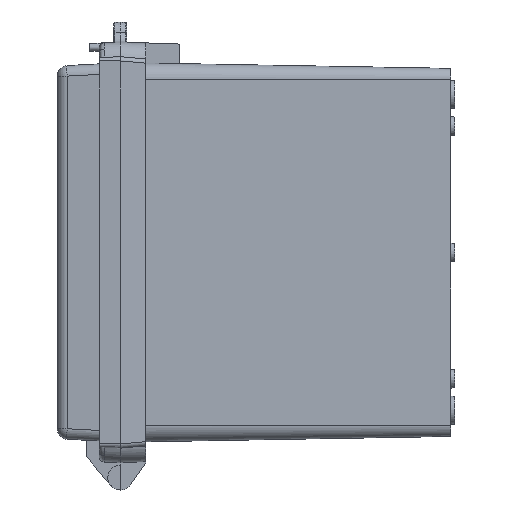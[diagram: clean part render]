
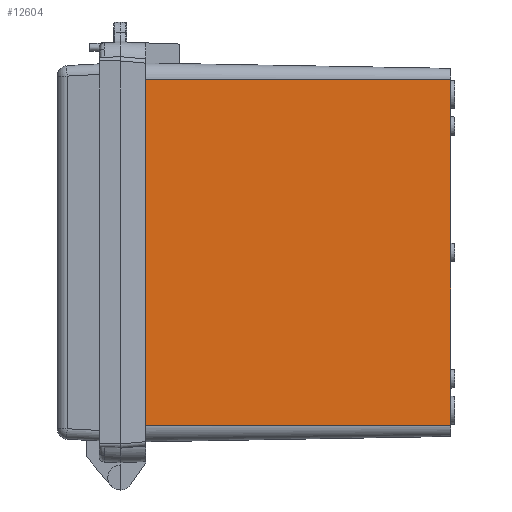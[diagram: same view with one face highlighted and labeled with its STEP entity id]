
A CAD part, left-side view. The second image highlights one B-rep face of the part: STEP entity #12604.
In plain terms, the highlighted planar face has unit normal (-1, -0.018, 0).
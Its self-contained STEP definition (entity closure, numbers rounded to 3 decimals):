
#59 = DIRECTION ( 'NONE',  ( 0., 0., -1. ) ) ;
#267 = VERTEX_POINT ( 'NONE', #3801 ) ;
#845 = VECTOR ( 'NONE', #59, 1000. ) ;
#883 = LINE ( 'NONE', #21261, #21521 ) ;
#971 = VECTOR ( 'NONE', #18442, 1000. ) ;
#987 = VECTOR ( 'NONE', #6420, 1000. ) ;
#1102 = VERTEX_POINT ( 'NONE', #10052 ) ;
#1311 = CARTESIAN_POINT ( 'NONE',  ( -140.148, -3.5, 1.597 ) ) ;
#1332 = DIRECTION ( 'NONE',  ( -0.017, 0.999, -0.035 ) ) ;
#1833 = VECTOR ( 'NONE', #8513, 1000. ) ;
#1900 = CARTESIAN_POINT ( 'NONE',  ( -140.148, -3.5, -94.653 ) ) ;
#2108 = LINE ( 'NONE', #17033, #19503 ) ;
#2199 = CARTESIAN_POINT ( 'NONE',  ( -140., -12., -94.653 ) ) ;
#2211 = CARTESIAN_POINT ( 'NONE',  ( -140.148, -3.5, 58.403 ) ) ;
#3023 = PLANE ( 'NONE',  #4336 ) ;
#3801 = CARTESIAN_POINT ( 'NONE',  ( -140., -12., 61.3 ) ) ;
#4027 = DIRECTION ( 'NONE',  ( -0.017, 1., 0. ) ) ;
#4205 = ORIENTED_EDGE ( 'NONE', *, *, #21561, .T. ) ;
#4335 = ORIENTED_EDGE ( 'NONE', *, *, #7103, .T. ) ;
#4336 = AXIS2_PLACEMENT_3D ( 'NONE', #4915, #14958, #14844 ) ;
#4390 = CARTESIAN_POINT ( 'NONE',  ( -137.469, -157., -82.15 ) ) ;
#4442 = DIRECTION ( 'NONE',  ( -0.017, 0.999, -0.035 ) ) ;
#4613 = ORIENTED_EDGE ( 'NONE', *, *, #18851, .T. ) ;
#4665 = EDGE_CURVE ( 'NONE', #9756, #17325, #9804, .T. ) ;
#4797 = LINE ( 'NONE', #13165, #10396 ) ;
#4893 = ORIENTED_EDGE ( 'NONE', *, *, #22018, .T. ) ;
#4915 = CARTESIAN_POINT ( 'NONE',  ( -140.148, -3.5, -94.653 ) ) ;
#5437 = DIRECTION ( 'NONE',  ( -0.017, 0.999, -0.035 ) ) ;
#5864 = DIRECTION ( 'NONE',  ( 0., 0., -1. ) ) ;
#6008 = DIRECTION ( 'NONE',  ( 0.017, -0.999, -0.035 ) ) ;
#6054 = CARTESIAN_POINT ( 'NONE',  ( -140.148, -3.5, -94.653 ) ) ;
#6127 = CARTESIAN_POINT ( 'NONE',  ( -140.148, -3.5, 61.597 ) ) ;
#6416 = VECTOR ( 'NONE', #21640, 1000. ) ;
#6420 = DIRECTION ( 'NONE',  ( 0., 0., -1. ) ) ;
#6658 = EDGE_CURVE ( 'NONE', #16434, #17908, #15949, .T. ) ;
#6733 = VECTOR ( 'NONE', #20281, 1000. ) ;
#6739 = DIRECTION ( 'NONE',  ( 0., 0., -1. ) ) ;
#6756 = LINE ( 'NONE', #8422, #971 ) ;
#6986 = CARTESIAN_POINT ( 'NONE',  ( -140.148, -3.5, 82.15 ) ) ;
#7103 = EDGE_CURVE ( 'NONE', #18040, #13993, #17376, .T. ) ;
#7436 = EDGE_CURVE ( 'NONE', #15871, #1102, #14015, .T. ) ;
#7497 = CARTESIAN_POINT ( 'NONE',  ( -137.469, -157., -94.653 ) ) ;
#7923 = EDGE_CURVE ( 'NONE', #13702, #267, #4797, .T. ) ;
#8371 = FACE_OUTER_BOUND ( 'NONE', #20636, .T. ) ;
#8416 = CARTESIAN_POINT ( 'NONE',  ( -140.148, -3.5, -94.653 ) ) ;
#8422 = CARTESIAN_POINT ( 'NONE',  ( -140.148, -3.5, -82.15 ) ) ;
#8513 = DIRECTION ( 'NONE',  ( 0., 0., -1. ) ) ;
#8617 = ORIENTED_EDGE ( 'NONE', *, *, #11202, .T. ) ;
#8707 = EDGE_CURVE ( 'NONE', #13021, #17908, #6756, .T. ) ;
#9050 = DIRECTION ( 'NONE',  ( 0., 0., -1. ) ) ;
#9756 = VERTEX_POINT ( 'NONE', #11987 ) ;
#9804 = LINE ( 'NONE', #16600, #19210 ) ;
#10052 = CARTESIAN_POINT ( 'NONE',  ( -140., -12., -61.3 ) ) ;
#10396 = VECTOR ( 'NONE', #19952, 1000. ) ;
#10450 = ORIENTED_EDGE ( 'NONE', *, *, #8707, .T. ) ;
#10474 = CARTESIAN_POINT ( 'NONE',  ( -140., -12., 1.3 ) ) ;
#11202 = EDGE_CURVE ( 'NONE', #16674, #13702, #17161, .T. ) ;
#11290 = ORIENTED_EDGE ( 'NONE', *, *, #12251, .T. ) ;
#11987 = CARTESIAN_POINT ( 'NONE',  ( -140., -12., -1.3 ) ) ;
#12251 = EDGE_CURVE ( 'NONE', #21275, #9756, #20308, .T. ) ;
#12494 = CARTESIAN_POINT ( 'NONE',  ( -140.148, -3.5, 82.15 ) ) ;
#12604 = ADVANCED_FACE ( 'NONE', ( #8371 ), #3023, .T. ) ;
#12626 = VECTOR ( 'NONE', #6739, 1000. ) ;
#13021 = VERTEX_POINT ( 'NONE', #20665 ) ;
#13158 = ORIENTED_EDGE ( 'NONE', *, *, #20042, .T. ) ;
#13165 = CARTESIAN_POINT ( 'NONE',  ( -140.053, -8.948, 61.407 ) ) ;
#13209 = ORIENTED_EDGE ( 'NONE', *, *, #6658, .F. ) ;
#13470 = DIRECTION ( 'NONE',  ( 0.017, -0.999, -0.035 ) ) ;
#13599 = ORIENTED_EDGE ( 'NONE', *, *, #17110, .T. ) ;
#13702 = VERTEX_POINT ( 'NONE', #6127 ) ;
#13915 = LINE ( 'NONE', #20690, #16565 ) ;
#13993 = VERTEX_POINT ( 'NONE', #2211 ) ;
#14015 = LINE ( 'NONE', #2199, #16313 ) ;
#14082 = VECTOR ( 'NONE', #4027, 1000. ) ;
#14501 = LINE ( 'NONE', #12494, #14082 ) ;
#14721 = CARTESIAN_POINT ( 'NONE',  ( -140.148, -3.5, -61.597 ) ) ;
#14840 = VERTEX_POINT ( 'NONE', #14721 ) ;
#14844 = DIRECTION ( 'NONE',  ( 0.017, -1., 0. ) ) ;
#14958 = DIRECTION ( 'NONE',  ( -1., -0.017, 0. ) ) ;
#14998 = EDGE_CURVE ( 'NONE', #16507, #21275, #2108, .T. ) ;
#15871 = VERTEX_POINT ( 'NONE', #19207 ) ;
#15917 = VECTOR ( 'NONE', #9050, 1000. ) ;
#15949 = LINE ( 'NONE', #7497, #15917 ) ;
#16313 = VECTOR ( 'NONE', #5864, 1000. ) ;
#16434 = VERTEX_POINT ( 'NONE', #16685 ) ;
#16507 = VERTEX_POINT ( 'NONE', #1311 ) ;
#16565 = VECTOR ( 'NONE', #5437, 1000. ) ;
#16600 = CARTESIAN_POINT ( 'NONE',  ( -140.205, -0.255, -1.71 ) ) ;
#16674 = VERTEX_POINT ( 'NONE', #6986 ) ;
#16685 = CARTESIAN_POINT ( 'NONE',  ( -137.469, -157., 82.15 ) ) ;
#16773 = LINE ( 'NONE', #8416, #987 ) ;
#17033 = CARTESIAN_POINT ( 'NONE',  ( -140.09, -6.856, 1.48 ) ) ;
#17110 = EDGE_CURVE ( 'NONE', #13993, #16507, #18194, .T. ) ;
#17161 = LINE ( 'NONE', #1900, #6733 ) ;
#17325 = VERTEX_POINT ( 'NONE', #18577 ) ;
#17376 = LINE ( 'NONE', #19603, #20905 ) ;
#17639 = EDGE_CURVE ( 'NONE', #14840, #13021, #16773, .T. ) ;
#17871 = ORIENTED_EDGE ( 'NONE', *, *, #17639, .T. ) ;
#17908 = VERTEX_POINT ( 'NONE', #4390 ) ;
#18040 = VERTEX_POINT ( 'NONE', #21860 ) ;
#18146 = ORIENTED_EDGE ( 'NONE', *, *, #7923, .T. ) ;
#18194 = LINE ( 'NONE', #6054, #6416 ) ;
#18283 = VERTEX_POINT ( 'NONE', #18964 ) ;
#18439 = CARTESIAN_POINT ( 'NONE',  ( -140.148, -3.5, -94.653 ) ) ;
#18442 = DIRECTION ( 'NONE',  ( 0.017, -1., 0. ) ) ;
#18554 = LINE ( 'NONE', #18439, #845 ) ;
#18577 = CARTESIAN_POINT ( 'NONE',  ( -140.148, -3.5, -1.597 ) ) ;
#18652 = LINE ( 'NONE', #21985, #12626 ) ;
#18851 = EDGE_CURVE ( 'NONE', #17325, #18283, #18554, .T. ) ;
#18964 = CARTESIAN_POINT ( 'NONE',  ( -140.148, -3.5, -58.403 ) ) ;
#19207 = CARTESIAN_POINT ( 'NONE',  ( -140., -12., -58.7 ) ) ;
#19210 = VECTOR ( 'NONE', #1332, 1000. ) ;
#19503 = VECTOR ( 'NONE', #13470, 1000. ) ;
#19603 = CARTESIAN_POINT ( 'NONE',  ( -140.242, 1.837, 58.217 ) ) ;
#19609 = ORIENTED_EDGE ( 'NONE', *, *, #14998, .T. ) ;
#19818 = EDGE_CURVE ( 'NONE', #18283, #15871, #883, .T. ) ;
#19952 = DIRECTION ( 'NONE',  ( 0.017, -0.999, -0.035 ) ) ;
#19999 = ORIENTED_EDGE ( 'NONE', *, *, #19818, .T. ) ;
#20042 = EDGE_CURVE ( 'NONE', #1102, #14840, #13915, .T. ) ;
#20191 = ORIENTED_EDGE ( 'NONE', *, *, #4665, .T. ) ;
#20281 = DIRECTION ( 'NONE',  ( 0., 0., -1. ) ) ;
#20308 = LINE ( 'NONE', #21868, #1833 ) ;
#20636 = EDGE_LOOP ( 'NONE', ( #21096, #13158, #17871, #10450, #13209, #4893, #8617, #18146, #4205, #4335, #13599, #19609, #11290, #20191, #4613, #19999 ) ) ;
#20665 = CARTESIAN_POINT ( 'NONE',  ( -140.148, -3.5, -82.15 ) ) ;
#20690 = CARTESIAN_POINT ( 'NONE',  ( -140.168, -2.347, -61.637 ) ) ;
#20905 = VECTOR ( 'NONE', #4442, 1000. ) ;
#21096 = ORIENTED_EDGE ( 'NONE', *, *, #7436, .T. ) ;
#21261 = CARTESIAN_POINT ( 'NONE',  ( -140.126, -4.764, -58.447 ) ) ;
#21275 = VERTEX_POINT ( 'NONE', #10474 ) ;
#21521 = VECTOR ( 'NONE', #6008, 1000. ) ;
#21561 = EDGE_CURVE ( 'NONE', #267, #18040, #18652, .T. ) ;
#21640 = DIRECTION ( 'NONE',  ( 0., 0., -1. ) ) ;
#21860 = CARTESIAN_POINT ( 'NONE',  ( -140., -12., 58.7 ) ) ;
#21868 = CARTESIAN_POINT ( 'NONE',  ( -140., -12., -94.653 ) ) ;
#21985 = CARTESIAN_POINT ( 'NONE',  ( -140., -12., -94.653 ) ) ;
#22018 = EDGE_CURVE ( 'NONE', #16434, #16674, #14501, .T. ) ;
